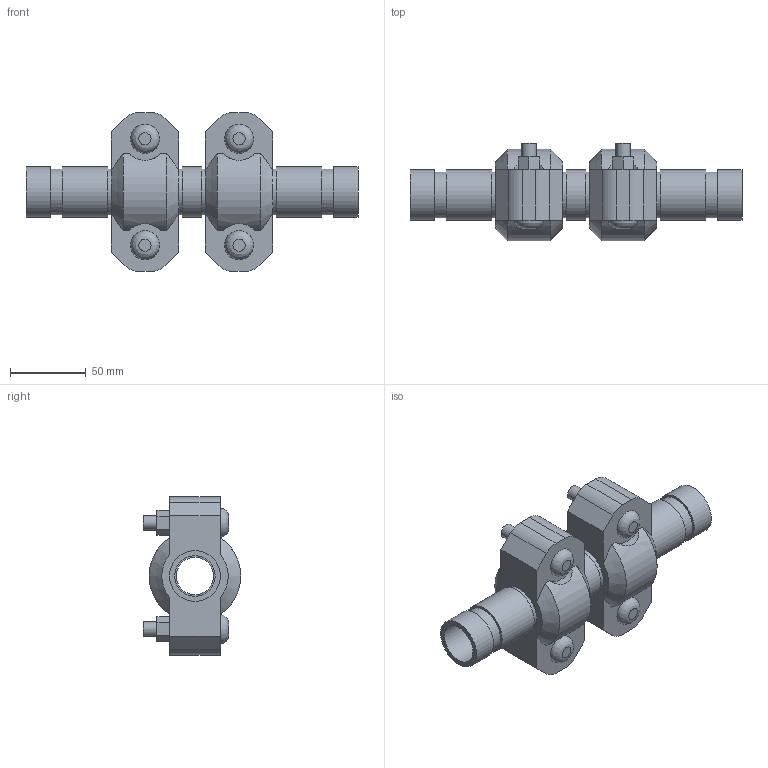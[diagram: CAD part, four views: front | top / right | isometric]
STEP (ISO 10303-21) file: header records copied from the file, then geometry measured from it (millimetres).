
FILE_DESCRIPTION(/* description */ ('VIC EXPANSION JOINT 2 COUPLINGS EXPANDED STYLE 155 (OGS)','CAx-IF Rec.Pracs.---Representation and Presentation of Product Manufacturing Information (PMI)---4.0---2014-10-13'),/* implementation_level */ '2;1');
FILE_NAME(/* name */ 'C:\Users\kkamble\AppData\Roaming\Autodesk\ApplicationPlugins\Victaulic.Temp\A706\Victaulic_IPS_Expansion Joint_Expanded_2 Couplings_Style 155 (OGS)_1 (25).stp',/* time_stamp */ '2021-06-26T23:55:57+02:00',/* author */ ('kkamble'),/* organization */ ('Victaulic'),/* preprocessor_version */ 'ST-DEVELOPER v17.2',/* originating_system */ 'Autodesk Inventor 2019',/* authorisation */ '');
FILE_SCHEMA (('AP242_MANAGED_MODEL_BASED_3D_ENGINEERING_MIM_LF { 1 0 10303 442 1 1 4 }'));
Length unit declared in the file: inch
Products named in the file (4): 155-01.0; Nipple-01.0; Nipple-01.0_1; 077-01.0
Assembly tree (5 placements, depth 2):
  155-01.0
    Nipple-01.0  x2
    Nipple-01.0_1
    077-01.0  x2
Bounding box: 218.69 x 64.33 x 104.65 mm (x, y, z)
Volume: 352836.4 mm3; surface area: 102787.4 mm2
Topology: 5 solids, 9 shells, 158 faces, 380 edges, 268 vertices
Faces by surface type: plane 90, cylinder 56, cone 8, bspline 4
Full cylindrical faces by diameter (mm): 9.525 x8, 11.43 x4, 24.511 x2, 26.645 x3, 30.226 x6, 33.401 x13
Entity records: 2937 total; most frequent: CARTESIAN_POINT 565, DIRECTION 473, ORIENTED_EDGE 410, EDGE_CURVE 205, AXIS2_PLACEMENT_3D 188, VERTEX_POINT 146, EDGE_LOOP 111, LINE 97
